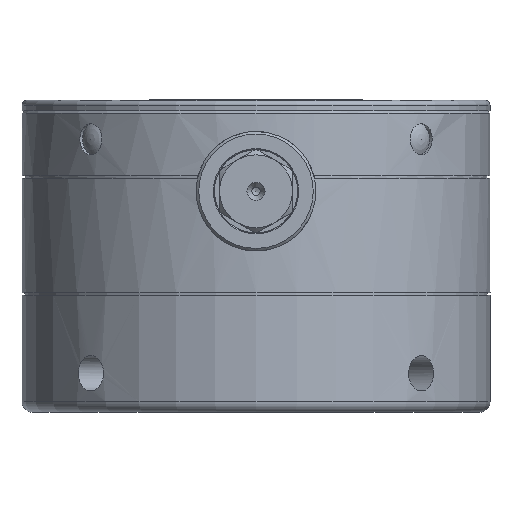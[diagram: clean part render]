
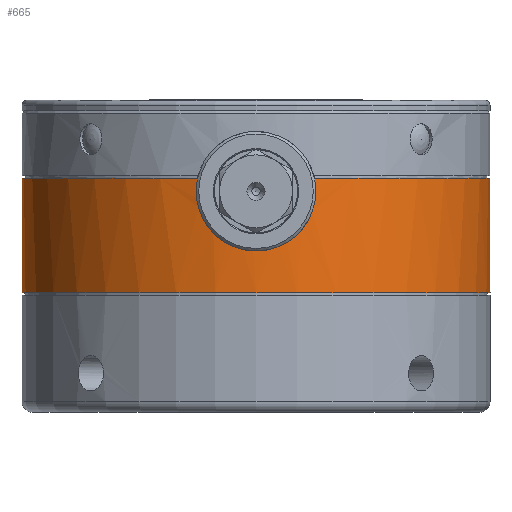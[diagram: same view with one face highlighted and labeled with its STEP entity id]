
A CAD part, left-side view. The second image highlights one B-rep face of the part: STEP entity #665.
In plain terms, the highlighted cylindrical face has radius 45 mm (diameter 90 mm), a full revolution.
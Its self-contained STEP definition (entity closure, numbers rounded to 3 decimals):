
#665 = ADVANCED_FACE( '', ( #1915, #1916 ), #1917, .T. );
#1915 = FACE_OUTER_BOUND( '', #3935, .T. );
#1916 = FACE_OUTER_BOUND( '', #3936, .T. );
#1917 = CYLINDRICAL_SURFACE( '', #3937, 45. );
#3935 = EDGE_LOOP( '', ( #6099, #6100, #6101, #6102 ) );
#3936 = EDGE_LOOP( '', ( #6103 ) );
#3937 = AXIS2_PLACEMENT_3D( '', #6104, #6105, #6106 );
#6099 = ORIENTED_EDGE( '', *, *, #11843, .F. );
#6100 = ORIENTED_EDGE( '', *, *, #11844, .F. );
#6101 = ORIENTED_EDGE( '', *, *, #11845, .F. );
#6102 = ORIENTED_EDGE( '', *, *, #11846, .F. );
#6103 = ORIENTED_EDGE( '', *, *, #11847, .T. );
#6104 = CARTESIAN_POINT( '', ( 0., 0., 54. ) );
#6105 = DIRECTION( '', ( 0., 0., 1. ) );
#6106 = DIRECTION( '', ( 1., 0., 0. ) );
#11843 = EDGE_CURVE( '', #13902, #13903, #13904, .T. );
#11844 = EDGE_CURVE( '', #13905, #13902, #13906, .T. );
#11845 = EDGE_CURVE( '', #13907, #13905, #13908, .T. );
#11846 = EDGE_CURVE( '', #13903, #13907, #13909, .T. );
#11847 = EDGE_CURVE( '', #13910, #13910, #13911, .T. );
#13902 = VERTEX_POINT( '', #17057 );
#13903 = VERTEX_POINT( '', #17058 );
#13904 = B_SPLINE_CURVE_WITH_KNOTS( '', 3, ( #17059, #17060, #17061, #17062, #17063, #17064, #17065, #17066, #17067, #17068, #17069, #17070, #17071, #17072, #17073, #17074, #17075, #17076, #17077, #17078, #17079, #17080 ), .UNSPECIFIED., .F., .F., ( 4, 2, 2, 2, 2, 2, 2, 2, 2, 2, 4 ), ( 0., 0.002, 0.003, 0.004, 0.006, 0.007, 0.008, 0.01, 0.012, 0.014, 0.016 ), .UNSPECIFIED. );
#13905 = VERTEX_POINT( '', #17081 );
#13906 = CIRCLE( '', #17082, 45. );
#13907 = VERTEX_POINT( '', #17083 );
#13908 = B_SPLINE_CURVE_WITH_KNOTS( '', 3, ( #17084, #17085, #17086, #17087, #17088, #17089, #17090, #17091, #17092, #17093, #17094, #17095, #17096, #17097, #17098, #17099, #17100, #17101, #17102, #17103, #17104, #17105, #17106, #17107, #17108, #17109 ), .UNSPECIFIED., .F., .F., ( 4, 2, 2, 2, 2, 2, 2, 2, 2, 2, 2, 2, 4 ), ( 0.025, 0.026, 0.027, 0.029, 0.03, 0.031, 0.033, 0.034, 0.035, 0.037, 0.038, 0.039, 0.041 ), .UNSPECIFIED. );
#13909 = B_SPLINE_CURVE_WITH_KNOTS( '', 3, ( #17110, #17111, #17112, #17113, #17114, #17115, #17116, #17117, #17118, #17119, #17120, #17121, #17122, #17123 ), .UNSPECIFIED., .F., .F., ( 4, 2, 2, 2, 2, 2, 4 ), ( 0.016, 0.018, 0.019, 0.021, 0.023, 0.024, 0.025 ), .UNSPECIFIED. );
#13910 = VERTEX_POINT( '', #17124 );
#13911 = CIRCLE( '', #17125, 45. );
#17057 = CARTESIAN_POINT( '', ( -43.578, 11.225, 45. ) );
#17058 = CARTESIAN_POINT( '', ( -44.8, 4.238, 31.809 ) );
#17059 = CARTESIAN_POINT( '', ( -43.578, 11.225, 45. ) );
#17060 = CARTESIAN_POINT( '', ( -43.539, 11.374, 44.331 ) );
#17061 = CARTESIAN_POINT( '', ( -43.516, 11.461, 43.659 ) );
#17062 = CARTESIAN_POINT( '', ( -43.505, 11.504, 42.645 ) );
#17063 = CARTESIAN_POINT( '', ( -43.505, 11.503, 42.306 ) );
#17064 = CARTESIAN_POINT( '', ( -43.513, 11.472, 41.627 ) );
#17065 = CARTESIAN_POINT( '', ( -43.521, 11.441, 41.285 ) );
#17066 = CARTESIAN_POINT( '', ( -43.558, 11.302, 40.27 ) );
#17067 = CARTESIAN_POINT( '', ( -43.597, 11.152, 39.61 ) );
#17068 = CARTESIAN_POINT( '', ( -43.675, 10.84, 38.647 ) );
#17069 = CARTESIAN_POINT( '', ( -43.704, 10.723, 38.33 ) );
#17070 = CARTESIAN_POINT( '', ( -43.768, 10.458, 37.704 ) );
#17071 = CARTESIAN_POINT( '', ( -43.803, 10.31, 37.395 ) );
#17072 = CARTESIAN_POINT( '', ( -43.914, 9.833, 36.499 ) );
#17073 = CARTESIAN_POINT( '', ( -43.995, 9.466, 35.935 ) );
#17074 = CARTESIAN_POINT( '', ( -44.166, 8.636, 34.876 ) );
#17075 = CARTESIAN_POINT( '', ( -44.255, 8.168, 34.377 ) );
#17076 = CARTESIAN_POINT( '', ( -44.429, 7.164, 33.479 ) );
#17077 = CARTESIAN_POINT( '', ( -44.513, 6.626, 33.077 ) );
#17078 = CARTESIAN_POINT( '', ( -44.669, 5.48, 32.367 ) );
#17079 = CARTESIAN_POINT( '', ( -44.741, 4.866, 32.058 ) );
#17080 = CARTESIAN_POINT( '', ( -44.8, 4.238, 31.809 ) );
#17081 = CARTESIAN_POINT( '', ( -43.578, -11.225, 45. ) );
#17082 = AXIS2_PLACEMENT_3D( '', #24155, #24156, #24157 );
#17083 = CARTESIAN_POINT( '', ( -44.8, -4.238, 31.809 ) );
#17084 = CARTESIAN_POINT( '', ( -44.8, -4.238, 31.809 ) );
#17085 = CARTESIAN_POINT( '', ( -44.77, -4.551, 31.934 ) );
#17086 = CARTESIAN_POINT( '', ( -44.738, -4.859, 32.071 ) );
#17087 = CARTESIAN_POINT( '', ( -44.668, -5.463, 32.375 ) );
#17088 = CARTESIAN_POINT( '', ( -44.631, -5.761, 32.541 ) );
#17089 = CARTESIAN_POINT( '', ( -44.513, -6.627, 33.077 ) );
#17090 = CARTESIAN_POINT( '', ( -44.429, -7.165, 33.48 ) );
#17091 = CARTESIAN_POINT( '', ( -44.299, -7.916, 34.151 ) );
#17092 = CARTESIAN_POINT( '', ( -44.255, -8.156, 34.386 ) );
#17093 = CARTESIAN_POINT( '', ( -44.168, -8.619, 34.879 ) );
#17094 = CARTESIAN_POINT( '', ( -44.123, -8.841, 35.138 ) );
#17095 = CARTESIAN_POINT( '', ( -43.995, -9.466, 35.936 ) );
#17096 = CARTESIAN_POINT( '', ( -43.914, -9.833, 36.498 ) );
#17097 = CARTESIAN_POINT( '', ( -43.804, -10.307, 37.389 ) );
#17098 = CARTESIAN_POINT( '', ( -43.769, -10.453, 37.694 ) );
#17099 = CARTESIAN_POINT( '', ( -43.705, -10.718, 38.319 ) );
#17100 = CARTESIAN_POINT( '', ( -43.675, -10.838, 38.64 ) );
#17101 = CARTESIAN_POINT( '', ( -43.597, -11.151, 39.608 ) );
#17102 = CARTESIAN_POINT( '', ( -43.558, -11.301, 40.266 ) );
#17103 = CARTESIAN_POINT( '', ( -43.522, -11.439, 41.271 ) );
#17104 = CARTESIAN_POINT( '', ( -43.514, -11.471, 41.609 ) );
#17105 = CARTESIAN_POINT( '', ( -43.505, -11.503, 42.293 ) );
#17106 = CARTESIAN_POINT( '', ( -43.505, -11.504, 42.636 ) );
#17107 = CARTESIAN_POINT( '', ( -43.516, -11.462, 43.657 ) );
#17108 = CARTESIAN_POINT( '', ( -43.539, -11.374, 44.331 ) );
#17109 = CARTESIAN_POINT( '', ( -43.578, -11.225, 45. ) );
#17110 = CARTESIAN_POINT( '', ( -44.8, 4.238, 31.809 ) );
#17111 = CARTESIAN_POINT( '', ( -44.863, 3.568, 31.544 ) );
#17112 = CARTESIAN_POINT( '', ( -44.914, 2.878, 31.342 ) );
#17113 = CARTESIAN_POINT( '', ( -44.965, 1.811, 31.138 ) );
#17114 = CARTESIAN_POINT( '', ( -44.978, 1.447, 31.086 ) );
#17115 = CARTESIAN_POINT( '', ( -44.996, 0.723, 31.017 ) );
#17116 = CARTESIAN_POINT( '', ( -45., 0.361, 31. ) );
#17117 = CARTESIAN_POINT( '', ( -45., -0.721, 31. ) );
#17118 = CARTESIAN_POINT( '', ( -44.983, -1.44, 31.067 ) );
#17119 = CARTESIAN_POINT( '', ( -44.931, -2.515, 31.272 ) );
#17120 = CARTESIAN_POINT( '', ( -44.91, -2.869, 31.358 ) );
#17121 = CARTESIAN_POINT( '', ( -44.86, -3.563, 31.56 ) );
#17122 = CARTESIAN_POINT( '', ( -44.832, -3.904, 31.677 ) );
#17123 = CARTESIAN_POINT( '', ( -44.8, -4.238, 31.809 ) );
#17124 = CARTESIAN_POINT( '', ( 45., 0., 23. ) );
#17125 = AXIS2_PLACEMENT_3D( '', #24158, #24159, #24160 );
#24155 = CARTESIAN_POINT( '', ( 0., 0., 45. ) );
#24156 = DIRECTION( '', ( 0., 0., 1. ) );
#24157 = DIRECTION( '', ( 1., 0., 0. ) );
#24158 = CARTESIAN_POINT( '', ( 0., 0., 23. ) );
#24159 = DIRECTION( '', ( 0., 0., 1. ) );
#24160 = DIRECTION( '', ( 1., 0., 0. ) );
